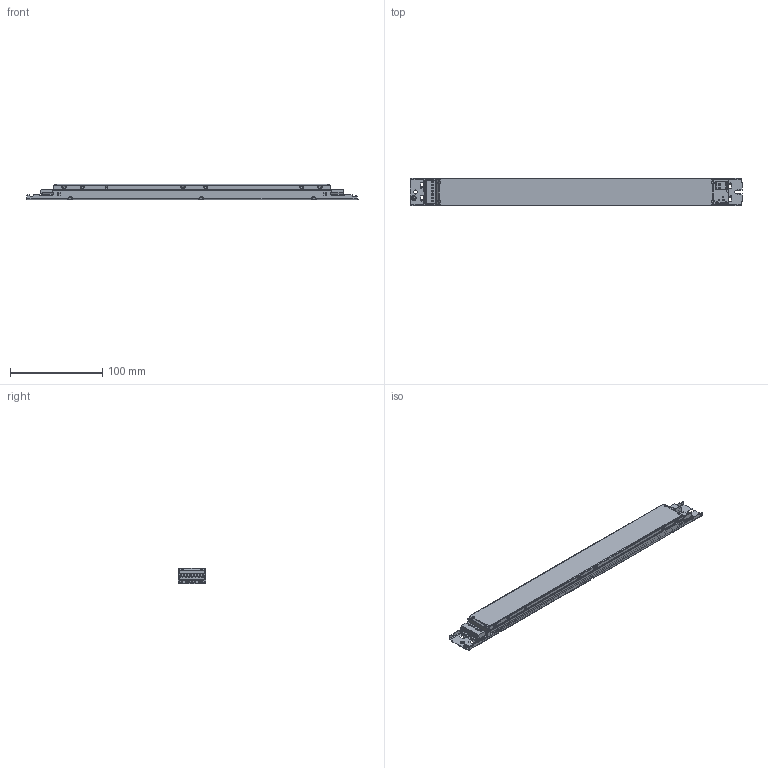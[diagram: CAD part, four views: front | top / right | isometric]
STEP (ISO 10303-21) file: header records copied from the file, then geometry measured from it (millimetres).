
FILE_DESCRIPTION((''),'2;1');
FILE_NAME('15014951Z_DATA360X30X16-3ANT_G2','2022-08-12T10:16:43',('Juergen.Hrach'),(''),'CREO PARAMETRIC BY PTC INC, 2021184','CREO PARAMETRIC BY PTC INC, 2021184','');
FILE_SCHEMA(('CONFIG_CONTROL_DESIGN'));
Products named in the file (1): 15014951Z_DATA360X30X16-3ANT_G2
Bounding box: 360 x 30 x 16.3 mm (x, y, z)
Volume: 148747.1 mm3; surface area: 49935.9 mm2
Topology: 2 solids, 12 shells, 2057 faces, 5441 edges, 3380 vertices
Faces by surface type: plane 1070, cylinder 681, bspline 232, cone 38, sphere 24, torus 12
Entity records: 72410 total; most frequent: CARTESIAN_POINT 22802, ORIENTED_EDGE 10850, DIRECTION 9756, EDGE_CURVE 5425, VERTEX_POINT 3380, AXIS2_PLACEMENT_3D 3292, VECTOR 3172, LINE 3172
